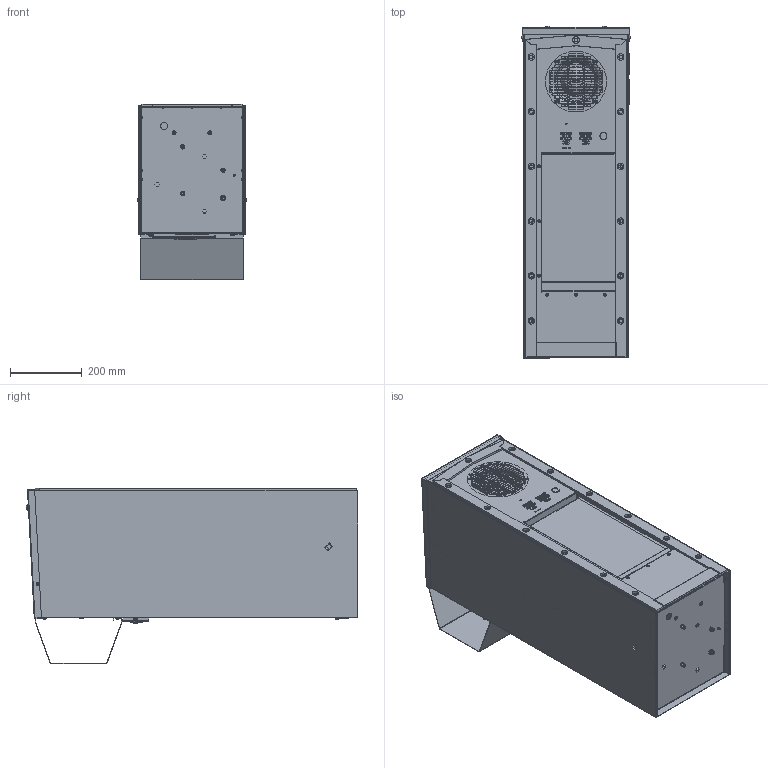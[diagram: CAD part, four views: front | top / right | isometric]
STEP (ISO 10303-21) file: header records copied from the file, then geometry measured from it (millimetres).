
FILE_DESCRIPTION (( 'STEP AP203' ), '1' );
FILE_NAME ('DTS 5361 81.STEP', '2026-04-24T20:47:18', ( '' ), ( '' ), 'SwSTEP 2.0', 'SolidWorks 2024', '' );
FILE_SCHEMA (( 'CONFIG_CONTROL_DESIGN' ));
Products named in the file (1): DTS 5361 81
Bounding box: 306.6 x 925.05 x 489.68 mm (x, y, z)
Surface area: 4040618.4 mm2 (no closed solid volume)
Topology: 0 solids, 481 shells, 1947 faces, 15343 edges, 13605 vertices
Faces by surface type: plane 1256, cylinder 406, torus 102, bspline 96, cone 65, sphere 22
Entity records: 215532 total; most frequent: CARTESIAN_POINT 110940, ORIENTED_EDGE 18404, DIRECTION 17549, EDGE_CURVE 15318, VERTEX_POINT 13590, VECTOR 9491, LINE 9491, AXIS2_PLACEMENT_3D 4029
